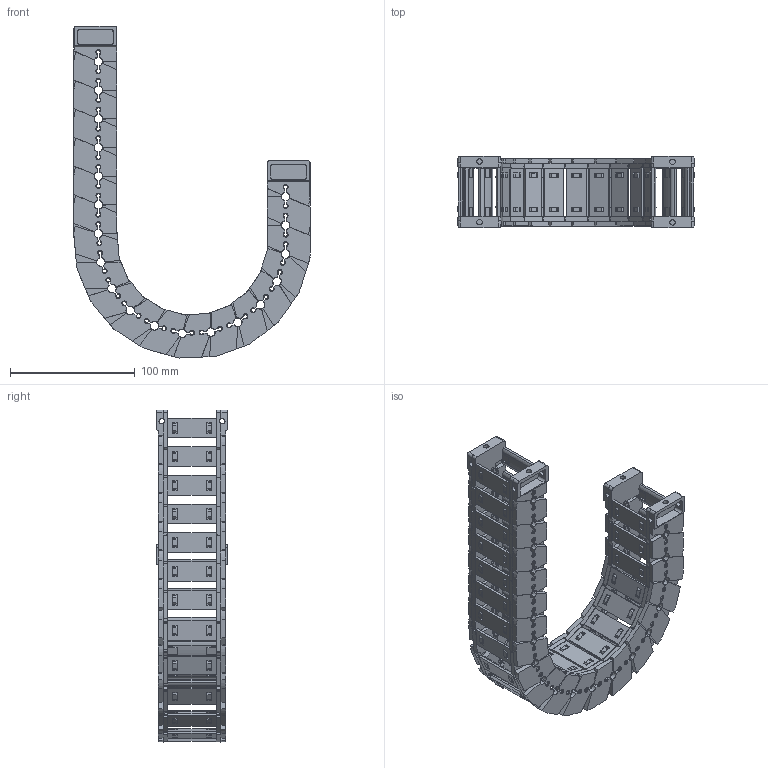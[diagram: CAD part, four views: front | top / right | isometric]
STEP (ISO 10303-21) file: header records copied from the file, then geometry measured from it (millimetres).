
FILE_DESCRIPTION((''),'2;1');
FILE_NAME('JY-28X38-R75_ASM','2026-03-26T08:41:30',('admin'),(''),'CREO PARAMETRIC BY PTC INC, 2021023','CREO PARAMETRIC BY PTC INC, 2021023','');
FILE_SCHEMA(('CONFIG_CONTROL_DESIGN'));
Length unit declared in the file: millimetre
Products named in the file (11): 28XL-L; 25-35XL-YP; 28XL-R; ASM0001_ASM; 28-LTT-A-L; 28-LTT-A-R; 28XL-LTT-A_ASM; 28-LTT-B-L; 28-LTT-B-R; 28XL-LTT-B_ASM; JY-28X38-R75_ASM
Assembly tree (32 placements, depth 3):
  JY-28X38-R75_ASM
    ASM0001_ASM  x18
      28XL-L
      25-35XL-YP
      28XL-R
    28XL-LTT-A_ASM
      28-LTT-A-L
      25-35XL-YP  x2
      28-LTT-A-R
    28XL-LTT-B_ASM
      28-LTT-B-L
      25-35XL-YP  x2
      28-LTT-B-R
Bounding box: 189.55 x 57.5 x 266.34 mm (x, y, z)
Volume: 279853.8 mm3; surface area: 204737 mm2
Topology: 80 solids, 80 shells, 6470 faces, 19228 edges, 12838 vertices
Faces by surface type: plane 4242, cone 1156, cylinder 934, bspline 138
Entity records: 29095 total; most frequent: CARTESIAN_POINT 9490, ORIENTED_EDGE 4352, DIRECTION 3655, EDGE_CURVE 2176, VERTEX_POINT 1454, VECTOR 1365, LINE 1365, AXIS2_PLACEMENT_3D 1145
